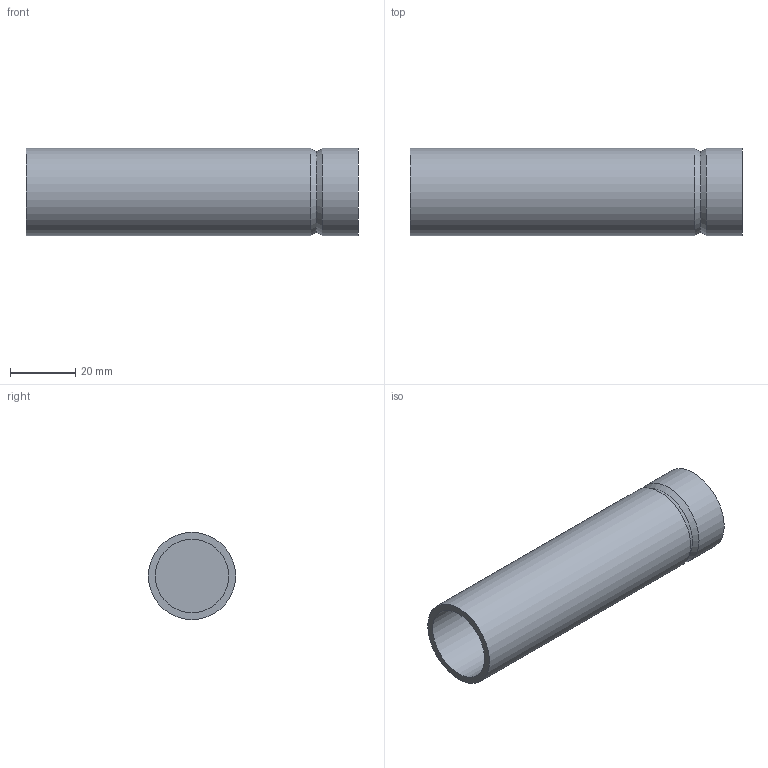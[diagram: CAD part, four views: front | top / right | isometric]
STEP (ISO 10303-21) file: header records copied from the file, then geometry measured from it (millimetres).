
FILE_DESCRIPTION(/* description */ ('VIC END CAP STYLE P540','CAx-IF Rec.Pracs.---Representation and Presentation of Product Manufacturing Information (PMI)---4.0---2014-10-13'),/* implementation_level */ '2;1');
FILE_NAME(/* name */ 'C:\Users\Vjadhav\AppData\Roaming\Autodesk\ApplicationPlugins\Back Up\Victaulic_SS-Vic-Press-TP 304_Cap_Style P540 (VP)\Victaulic_SS-Vic-Press-TP 304_Cap_Style P540 (VP)_0.75 (20).stp',/* time_stamp */ '2020-08-12T15:35:26+05:00',/* author */ ('cgray'),/* organization */ ('Victaulic'),/* preprocessor_version */ 'ST-DEVELOPER v17.2',/* originating_system */ 'Autodesk Inventor 2019',/* authorisation */ '');
FILE_SCHEMA (('AP242_MANAGED_MODEL_BASED_3D_ENGINEERING_MIM_LF { 1 0 10303 442 1 1 4 }'));
Length unit declared in the file: inch
Products named in the file (1): P540-0.75
Bounding box: 101.6 x 26.67 x 26.67 mm (x, y, z)
Volume: 17205.6 mm3; surface area: 16681.5 mm2
Topology: 1 solids, 1 shells, 8 faces, 19 edges, 14 vertices
Faces by surface type: plane 3, cylinder 3, cone 2
Full cylindrical faces by diameter (mm): 22.454 x1, 26.67 x2
Entity records: 389 total; most frequent: DIRECTION 77, CARTESIAN_POINT 59, ORIENTED_EDGE 38, AXIS2_PLACEMENT_3D 36, EDGE_CURVE 19, CIRCLE 14, VERTEX_POINT 14, STYLED_ITEM 10
